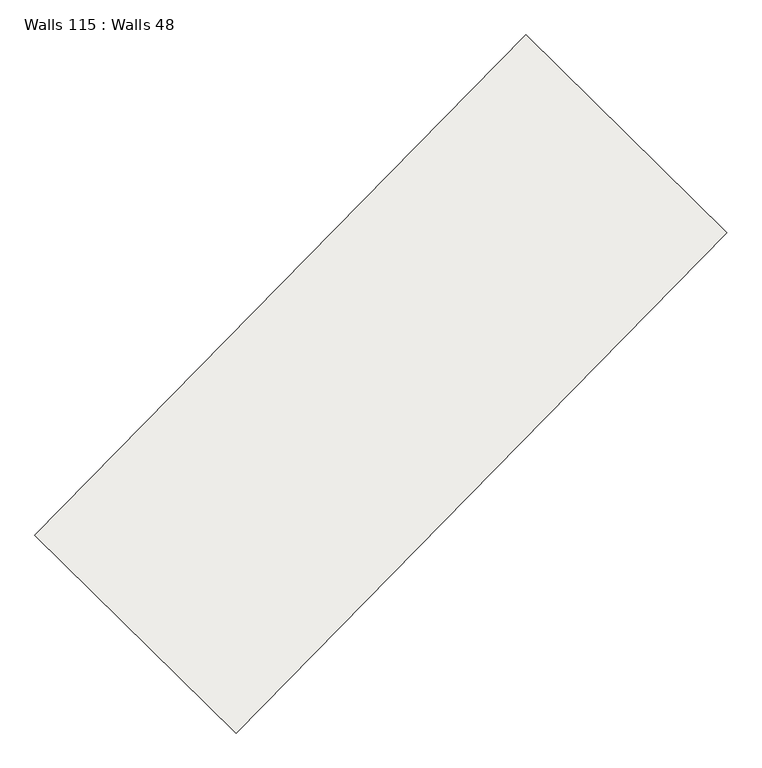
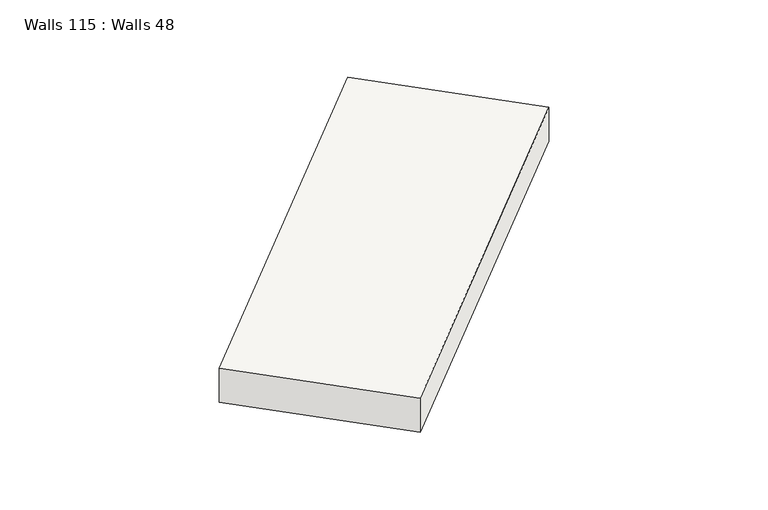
"""IFC4 building model written with IfcOpenShell, lengths in millimetres: slab geometry, Walls 115 : Walls 48."""

from ifc_helpers import new_model, si_unit, frame, origin, place, context, project, spatial, polyline, outline, extrude, source, transform, mapped, element, save


def walls_115_walls_48_2dac4245(model_context):
    return source(origin(), model_context, "Body", "SweptSolid", [
        extrude(outline(polyline([(-350.0, 0.0), (350.0, 0.0), (260.0, -8700.000001), (-440.0, -8700.000001), (-350.0, 0.0)])), frame((-91425.678932, -252366.6773511, 637120.0), z_axis=(-0.7137361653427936, 0.7004146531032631, 0.0), x_axis=(0.0, 0.0, 1.0)), (0.0, 0.0, 1.0), 3499.999995),
    ])


if __name__ == "__main__":
    model = new_model("IFC4")
    model_context = context("Model", 3, world=origin())
    ifc_project = project(units=[si_unit("LENGTHUNIT", "METRE", prefix="MILLI")], contexts=[model_context])
    site = spatial("IfcSite", under=ifc_project)
    building = spatial("IfcBuilding", under=site)
    placement = place(None, origin())
    walls_115_walls_48_shape = walls_115_walls_48_2dac4245(model_context)
    element("IfcSlab", 1, ObjectType="Walls 115 : Walls 48", at=placement, inside=building, context=model_context, shape_type="MappedRepresentation", body=[
        mapped(walls_115_walls_48_shape, transform((0.0, 0.0, 0.0), x_axis=(1.0, 0.0, 0.0), y_axis=(0.0, 1.0, 0.0), z_axis=(0.0, 0.0, 1.0))),
    ])
    save(model, "model.ifc")
